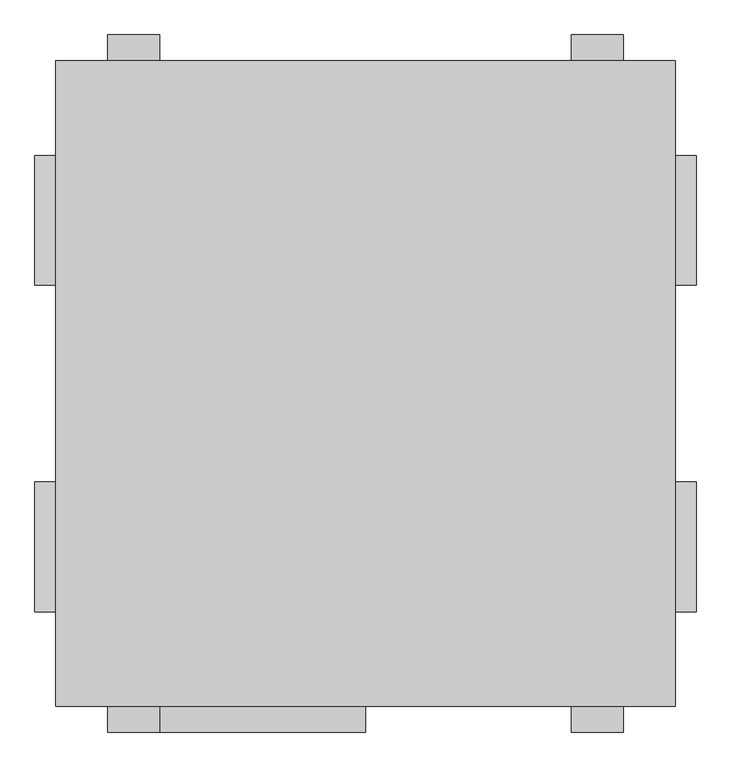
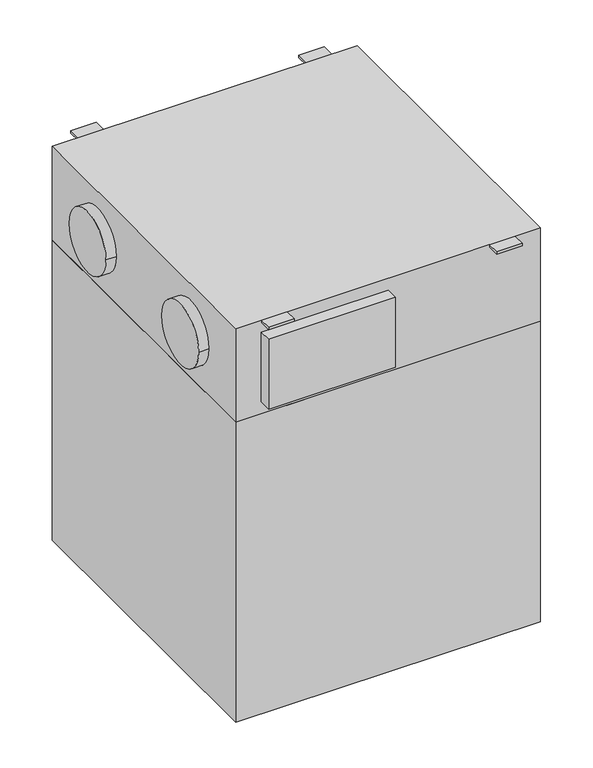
"""IFC4 building model written with IfcOpenShell, lengths in millimetres: proxy geometry, ADSK_КПВУ RONA SRME_круглая : Rona SRME 1410 H1."""

from ifc_helpers import new_model, si_unit, frame, origin, place, context, project, spatial, polyline, circle_curve, outline, extrude, source, transform, mapped, element, save
from ifc_brep_helpers import plane_surface, cylinder_surface, advanced_brep


def mechanical_equipment_9045a139(model_context):
    return source(origin(), model_context, "Body", "SolidModel", [
        extrude(outline(polyline([(862.5, 621.5), (862.5, -621.5), (-330.5, -621.5), (-330.5, 621.5), (862.5, 621.5)])), frame((0.0, 0.0, -1481.0), z_axis=(0.0, 0.0, 1.0), x_axis=(1.0, 0.0, 0.0)), (0.0, 0.0, 1.0), 1243.0),
        advanced_brep(
        [(862.5, -621.5, 150.0), (862.5, -621.5, -238.0), (862.5, 621.5, -238.0), (862.5, 621.5, 150.0), (862.5, -189.5, -44.0), (862.5, -439.5, -44.0), (862.5, 439.5, -44.0), (862.5, 189.5, -44.0), (-330.5, -621.5, 150.0), (-330.5, 621.5, 150.0), (-330.5, 621.5, -238.0), (-330.5, -621.5, -238.0), (-330.5, -189.5, -44.0), (-330.5, -439.5, -44.0), (-330.5, 189.5, -44.0), (-330.5, 439.5, -44.0), (-370.5, -439.5, -44.0), (-370.5, -189.5, -44.0), (-370.5, 189.5, -44.0), (-370.5, 439.5, -44.0), (-230.5, -621.5, 100.0), (266.0, -621.5, 100.0), (266.0, -621.5, -188.0), (-230.5, -621.5, -188.0), (902.5, -439.5, -44.0), (902.5, -189.5, -44.0), (902.5, 189.5, -44.0), (902.5, 439.5, -44.0), (-230.5, -671.5, 100.0), (266.0, -671.5, 100.0), (266.0, -671.5, -188.0), (-230.5, -671.5, -188.0)],
        [
            (0, 1),
            (1, 2),
            (2, 3),
            (3, 0),
            (4, 5, circle_curve(frame((862.5, -314.5, -44.0), z_axis=(-1.0, 0.0, 0.0), x_axis=(0.0, 1.0, 0.0)), 125.0)),
            (5, 4, circle_curve(frame((862.5, -314.5, -44.0), z_axis=(-1.0, 0.0, 0.0), x_axis=(0.0, 1.0, 0.0)), 125.0)),
            (6, 7, circle_curve(frame((862.5, 314.5, -44.0), z_axis=(-1.0, 0.0, 0.0), x_axis=(0.0, 1.0, 0.0)), 125.0)),
            (7, 6, circle_curve(frame((862.5, 314.5, -44.0), z_axis=(-1.0, 0.0, 0.0), x_axis=(0.0, 1.0, 0.0)), 125.0)),
            (8, 9),
            (9, 10),
            (10, 11),
            (11, 8),
            (12, 13, circle_curve(frame((-330.5, -314.5, -44.0), z_axis=(1.0, 0.0, 0.0), x_axis=(0.0, 1.0, 0.0)), 125.0)),
            (13, 12, circle_curve(frame((-330.5, -314.5, -44.0), z_axis=(1.0, 0.0, 0.0), x_axis=(0.0, 1.0, 0.0)), 125.0)),
            (14, 15, circle_curve(frame((-330.5, 314.5, -44.0), z_axis=(1.0, 0.0, 0.0), x_axis=(0.0, 1.0, 0.0)), 125.0)),
            (15, 14, circle_curve(frame((-330.5, 314.5, -44.0), z_axis=(1.0, 0.0, 0.0), x_axis=(0.0, 1.0, 0.0)), 125.0)),
            (16, 17, circle_curve(frame((-370.5, -314.5, -44.0), z_axis=(-1.0, 0.0, 0.0), x_axis=(0.0, 1.0, 0.0)), 125.0)),
            (17, 16, circle_curve(frame((-370.5, -314.5, -44.0), z_axis=(-1.0, 0.0, 0.0), x_axis=(0.0, 1.0, 0.0)), 125.0)),
            (18, 19, circle_curve(frame((-370.5, 314.5, -44.0), z_axis=(-1.0, 0.0, 0.0), x_axis=(0.0, 1.0, 0.0)), 125.0)),
            (19, 18, circle_curve(frame((-370.5, 314.5, -44.0), z_axis=(-1.0, 0.0, 0.0), x_axis=(0.0, 1.0, 0.0)), 125.0)),
            (0, 8),
            (11, 1),
            (20, 21),
            (21, 22),
            (22, 23),
            (23, 20),
            (10, 2),
            (9, 3),
            (16, 13),
            (12, 17),
            (24, 25, circle_curve(frame((902.5, -314.5, -44.0), z_axis=(1.0, 0.0, 0.0), x_axis=(0.0, 1.0, 0.0)), 125.0)),
            (25, 24, circle_curve(frame((902.5, -314.5, -44.0), z_axis=(1.0, 0.0, 0.0), x_axis=(0.0, 1.0, 0.0)), 125.0)),
            (26, 27, circle_curve(frame((902.5, 314.5, -44.0), z_axis=(1.0, 0.0, 0.0), x_axis=(0.0, 1.0, 0.0)), 125.0)),
            (27, 26, circle_curve(frame((902.5, 314.5, -44.0), z_axis=(1.0, 0.0, 0.0), x_axis=(0.0, 1.0, 0.0)), 125.0)),
            (24, 5),
            (4, 25),
            (19, 15),
            (14, 18),
            (26, 7),
            (6, 27),
            (20, 28),
            (28, 29),
            (29, 21),
            (22, 30),
            (30, 31),
            (31, 23),
            (31, 28),
            (30, 29),
        ],
        [
            plane_surface(frame((862.5, -621.5, 150.0), z_axis=(1.0, 0.0, 0.0), x_axis=(0.0, 0.0, -1.0))),
            plane_surface(frame((-330.5, -621.5, 150.0), z_axis=(-1.0, 0.0, 0.0), x_axis=(0.0, 0.0, 1.0))),
            plane_surface(frame((-370.5, -189.5, -44.0), z_axis=(-1.0, 0.0, 0.0), x_axis=(0.0, 0.0, -1.0))),
            plane_surface(frame((862.5, -621.5, 150.0), z_axis=(0.0, -1.0, 0.0), x_axis=(-1.0, 0.0, 0.0))),
            plane_surface(frame((862.5, -621.5, -238.0), z_axis=(0.0, 0.0, -1.0), x_axis=(-1.0, 0.0, 0.0))),
            plane_surface(frame((862.5, 621.5, -238.0), z_axis=(0.0, 1.0, 0.0), x_axis=(-1.0, 0.0, 0.0))),
            plane_surface(frame((862.5, 621.5, 150.0), z_axis=(0.0, 0.0, 1.0), x_axis=(-1.0, 0.0, 0.0))),
            cylinder_surface(frame((-370.5, -314.5, -44.0), z_axis=(1.0, 0.0, 0.0), x_axis=(0.0, 1.0, 0.0)), 125.0),
            plane_surface(frame((902.5, -189.5, -44.0), z_axis=(1.0, 0.0, 0.0), x_axis=(0.0, 0.0, 1.0))),
            cylinder_surface(frame((862.5, -314.5, -44.0), z_axis=(1.0, 0.0, 0.0), x_axis=(0.0, 1.0, 0.0)), 125.0),
            cylinder_surface(frame((-370.5, 314.5, -44.0), z_axis=(1.0, 0.0, 0.0), x_axis=(0.0, 1.0, 0.0)), 125.0),
            cylinder_surface(frame((862.5, 314.5, -44.0), z_axis=(1.0, 0.0, 0.0), x_axis=(0.0, 1.0, 0.0)), 125.0),
            plane_surface(frame((-230.5, -621.5, 100.0), z_axis=(0.0, 0.0, 1.0), x_axis=(-1.0, 0.0, 0.0))),
            plane_surface(frame((-230.5, -621.5, -188.0), z_axis=(0.0, 0.0, -1.0), x_axis=(1.0, 0.0, 0.0))),
            plane_surface(frame((-230.5, -621.5, 100.0), z_axis=(-1.0, 0.0, 0.0), x_axis=(0.0, 0.0, -1.0))),
            plane_surface(frame((-230.5, -671.5, 100.0), z_axis=(0.0, -1.0, 0.0), x_axis=(0.0, 0.0, -1.0))),
            plane_surface(frame((266.0, -671.5, 100.0), z_axis=(1.0, 0.0, 0.0), x_axis=(0.0, 0.0, -1.0))),
        ],
        [
            (0, [[1, 2, 3, 4], [5, 6], [7, 8]]),
            (1, [[9, 10, 11, 12], [13, 14], [15, 16]]),
            (2, [[17, 18]]),
            (2, [[19, 20]]),
            (3, [[-1, 21, -12, 22], [23, 24, 25, 26]]),
            (4, [[-2, -22, -11, 27]]),
            (5, [[-3, -27, -10, 28]]),
            (6, [[-4, -28, -9, -21]]),
            (7, [[-17, 29, -13, 30]]),
            (7, [[-18, -30, -14, -29]]),
            (8, [[31, 32]]),
            (8, [[33, 34]]),
            (9, [[-31, 35, -5, 36]]),
            (9, [[-32, -36, -6, -35]]),
            (10, [[-20, 37, -15, 38]]),
            (10, [[-19, -38, -16, -37]]),
            (11, [[-33, 39, -7, 40]]),
            (11, [[-34, -40, -8, -39]]),
            (12, [[41, 42, 43, -23]]),
            (13, [[44, 45, 46, -25]]),
            (14, [[-41, -26, -46, 47]]),
            (15, [[-42, -47, -45, 48]]),
            (16, [[-43, -48, -44, -24]]),
        ],
    ),
        extrude(outline(polyline([(-130.5, 671.5), (-130.5, 621.5), (-230.5, 621.5), (-230.5, 671.5), (-130.5, 671.5)])), frame((0.0, 0.0, 140.0), z_axis=(0.0, 0.0, 1.0), x_axis=(1.0, 0.0, 0.0)), (0.0, 0.0, 1.0), 10.0),
        extrude(outline(polyline([(662.5, 671.5), (762.5, 671.5), (762.5, 621.5), (662.5, 621.5), (662.5, 671.5)])), frame((0.0, 0.0, 140.0), z_axis=(0.0, 0.0, 1.0), x_axis=(1.0, 0.0, 0.0)), (0.0, 0.0, 1.0), 10.0),
        extrude(outline(polyline([(-130.5, -671.5), (-230.5, -671.5), (-230.5, -621.5), (-130.5, -621.5), (-130.5, -671.5)])), frame((0.0, 0.0, 140.0), z_axis=(0.0, 0.0, 1.0), x_axis=(1.0, 0.0, 0.0)), (0.0, 0.0, 1.0), 10.0),
        extrude(outline(polyline([(662.5, -671.5), (662.5, -621.5), (762.5, -621.5), (762.5, -671.5), (662.5, -671.5)])), frame((0.0, 0.0, 140.0), z_axis=(0.0, 0.0, 1.0), x_axis=(1.0, 0.0, 0.0)), (0.0, 0.0, 1.0), 10.0),
    ])


if __name__ == "__main__":
    model = new_model("IFC4")
    model_context = context("Model", 3, world=origin())
    ifc_project = project(units=[si_unit("LENGTHUNIT", "METRE", prefix="MILLI")], contexts=[model_context])
    site = spatial("IfcSite", under=ifc_project)
    building = spatial("IfcBuilding", under=site)
    placement = place(None, origin())
    mechanical_equipment_shape = mechanical_equipment_9045a139(model_context)
    element("IfcBuildingElementProxy", 1, Name="ADSK_КПВУ RONA SRME_круглая : Rona SRME 1410 H1", ObjectType="ADSK_КПВУ RONA SRME_круглая : Rona SRME 1410 H1", at=placement, inside=building, context=model_context, shape_type="MappedRepresentation", body=[
        mapped(mechanical_equipment_shape, transform((0.0, 0.0, 0.0), x_axis=(1.0, 0.0, 0.0), y_axis=(0.0, 1.0, 0.0), z_axis=(0.0, 0.0, 1.0))),
    ])
    save(model, "model.ifc")
